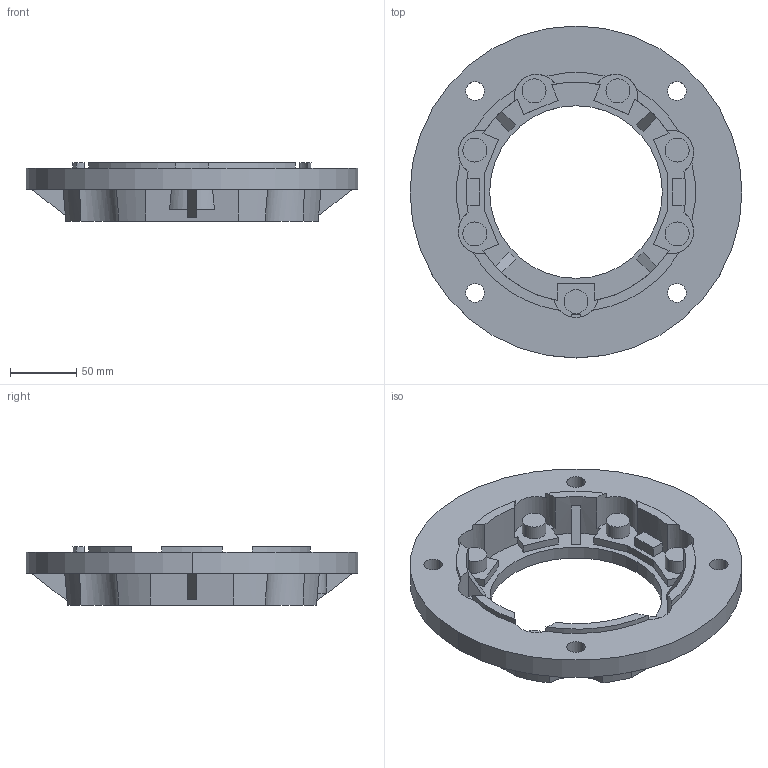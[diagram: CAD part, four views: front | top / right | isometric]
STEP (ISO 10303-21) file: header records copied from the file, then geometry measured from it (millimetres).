
FILE_DESCRIPTION(/* description */ (''),/* implementation_level */ '2;1');
FILE_NAME(/* name */ '3_FLANGIA (CAMPANA) LATERALE FC B103',/* time_stamp */ '2025-10-22T11:12:42+02:00',/* author */ (''),/* organization */ (''),/* preprocessor_version */ 'ST-DEVELOPER v19.2',/* originating_system */ 'Rhino 8.23',/* authorisation */ '');
FILE_SCHEMA (('CONFIG_CONTROL_DESIGN'));
Length unit declared in the file: millimetre
Products named in the file (2): Document; BFU103FC
Bounding box: 250 x 250 x 44 mm (x, y, z)
Volume: 733336.5 mm3; surface area: 133109.3 mm2
Topology: 1 solids, 1 shells, 147 faces, 408 edges, 272 vertices
Faces by surface type: plane 84, cylinder 51, bspline 12
Entity records: 6422 total; most frequent: CARTESIAN_POINT 1649, ORIENTED_EDGE 816, DIRECTION 459, EDGE_CURVE 408, AXIS2_PLACEMENT_3D 297, VERTEX_POINT 272, B_SPLINE_CURVE_WITH_KNOTS 242, EDGE_LOOP 166
